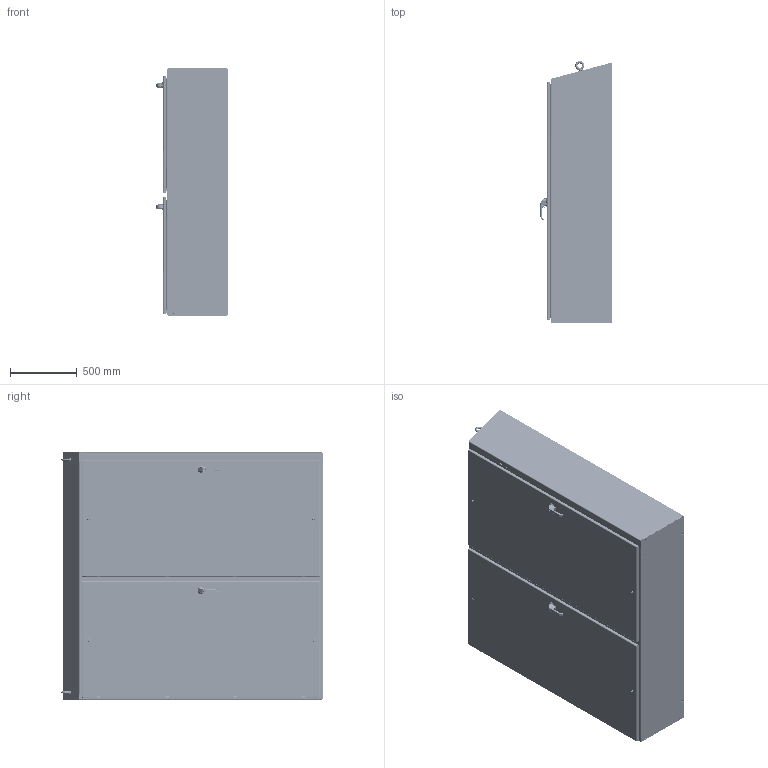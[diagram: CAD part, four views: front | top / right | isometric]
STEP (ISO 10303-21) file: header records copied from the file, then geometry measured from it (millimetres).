
FILE_DESCRIPTION((''),'2;1');
FILE_NAME('MODEL-138_ASM','2019-10-04T07:21:19',('joelb'),('SAGINAW CONTROL & ENGINEERING'),'CREO PARAMETRIC BY PTC INC, 2017260','CREO PARAMETRIC BY PTC INC, 2017260','');
FILE_SCHEMA(('AUTOMOTIVE_DESIGN { 1 0 10303 214 1 1 1 1 }'));
Length unit declared in the file: inch
Products named in the file (122): MODEL-138-BTM; MODEL-138-RS; MODEL-138-LS; MODEL-138-BCK; MODEL-138-TP; 128026; 100024; 128026_ASM; MODEL-138-CCA-CHNL; MODEL-138-CCA-STIF; 100067; 128025; 127617; 102535; 103465; MODEL-138-CCASSY_ASM; MODEL-138-M-DR; 100837; 111267; 100882; 126935_HANDLE; 126935_HANDLE_INSERT; 126935_SHAFT_CAM; 126935_ADAPTER_CAM; 126935_NUT_CAM; 126935_BASE; 126935_PADLOCK_CATCH; 126935_SCREW_SMALL; 126935_NUT_MOUNTING_SMALL; 126935_NUT_MOUNTING_LARGE; 126935_ASM; 102237; 100030; 102237_ASM; MODEL-138-ROD-UPR-RH; 128146; 128145; 128144; 102482; MODEL-138-ROD-UPR-RH_ASM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
Assembly tree (263 placements, depth 4):
  MODEL-138_ASM
    MODEL-138-BTM
    MODEL-138-RS
    MODEL-138-LS
    MODEL-138-BCK
    MODEL-138-TP
    128026_ASM  x2
      128026
      100024
    MODEL-138-CCASSY_ASM
      MODEL-138-CCA-CHNL
      MODEL-138-CCA-STIF
      100067  x4
      128025  x2
      127617  x2
      102535  x8
      103465  x2
    MODEL-138-M-DOOR-ASSY_ASM
      MODEL-138-M-DR
      100837  x7
      111267
      100882  x12
      126935_ASM
        126935_HANDLE
        126935_HANDLE_INSERT
        126935_SHAFT_CAM
        126935_ADAPTER_CAM
        126935_NUT_CAM
        126935_BASE
        126935_PADLOCK_CATCH
        126935_SCREW_SMALL
        126935_NUT_MOUNTING_SMALL
        126935_NUT_MOUNTING_LARGE
      102237_ASM
        102237
        100030  x2
      MODEL-138-ROD-UPR-RH_ASM
        MODEL-138-ROD-UPR-RH
        128146
        128145
        128144
        102482  x2
      128143  x2
      112504  x2
      MODEL-138-ROD-LWR-RH_ASM
        MODEL-138-ROD-LWR-RH
        128146
        128145
        128144
        102482  x2
      MODEL-138-PR-GSKT-MD
      113885_ASM  x2
        113885_SHAFT
        113885_INSERT
        113885_CAM_30MM
        113885_NUT
        113885_SCREW
      128258_ASM  x4
        128258
        126397
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Bounding box: 534.57 x 1963.68 x 1854.2 mm (x, y, z)
Volume: 44215644 mm3; surface area: 31775327 mm2
Topology: 293 solids, 293 shells, 22447 faces, 57851 edges, 36081 vertices
Faces by surface type: plane 8424, cylinder 6036, bspline 4692, torus 1397, cone 1338, sphere 560
Entity records: 423265 total; most frequent: CARTESIAN_POINT 124416, ORIENTED_EDGE 42740, DIRECTION 40456, EDGE_CURVE 21370, PRESENTATION_STYLE_ASSIGNMENT 20601, STYLED_ITEM 19802, CURVE_STYLE 18939, AXIS2_PLACEMENT_3D 14968
